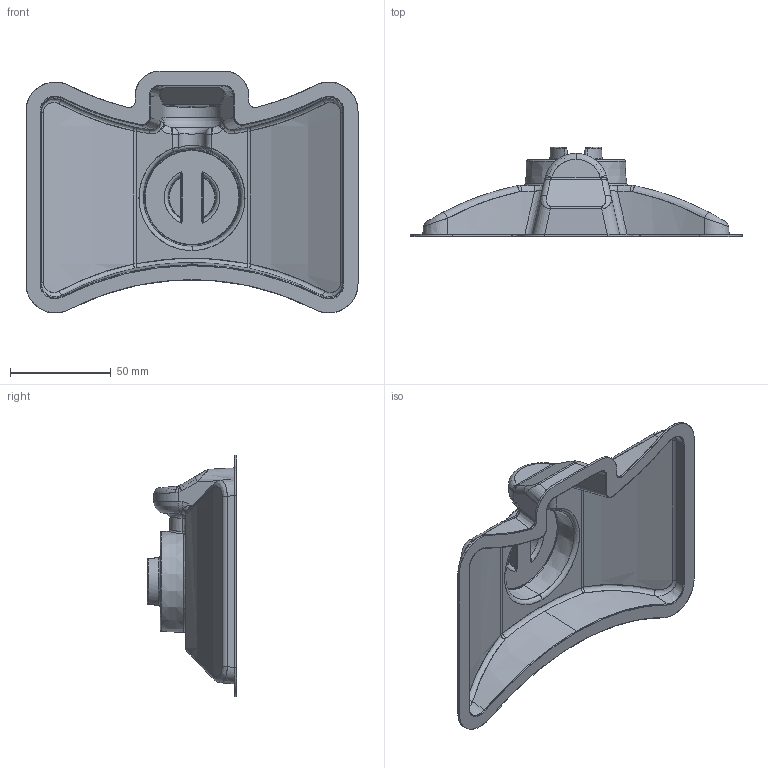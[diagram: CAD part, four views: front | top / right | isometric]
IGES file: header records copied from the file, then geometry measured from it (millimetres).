
Start section: SolidWorks IGES file using analytic representation for surfaces
Global section: file name: C:\Documents and Settings\pt.SOLIDTRANS\Desktop\Users Group\Users Group Feb-2005\Tooling.IGS; native system: SolidWorks 2005 by SolidWorks Corporation; preprocessor: SolidWorks 2005 by SolidWorks Corporation; author: pt; date: 050202.151738; units: inch
Bounding box: 165.1 x 44.45 x 120.3 mm (x, y, z)
Surface area: 55487.4 mm2 (no closed solid volume)
Topology: 0 solids, 0 shells, 276 faces, 3919 edges, 4545 vertices
Faces by surface type: bspline 192, revolution 84
